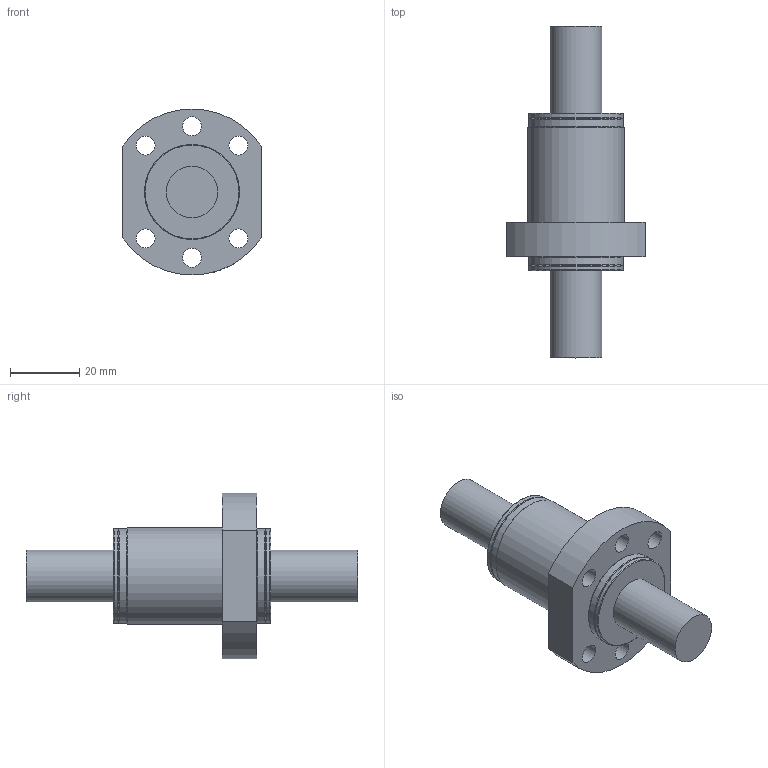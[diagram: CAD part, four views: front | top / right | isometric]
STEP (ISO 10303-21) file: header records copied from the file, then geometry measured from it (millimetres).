
FILE_DESCRIPTION(/* description */ (''),/* implementation_level */ '2;1');
FILE_NAME(/* name */ 'SFJ1616-1.8.stp',/* time_stamp */ '2023-02-20T11:38:36+08:00',/* author */ (''),/* organization */ (''),/* preprocessor_version */ 'ST-DEVELOPER v16.7',/* originating_system */ 'SIEMENS PLM Software NX 1892',/* authorisation */ '');
FILE_SCHEMA (('AUTOMOTIVE_DESIGN { 1 0 10303 214 3 1 1 1 }'));
Length unit declared in the file: millimetre
Products named in the file (1): 03161CD0525Bcuzw
Bounding box: 40 x 96 x 48 mm (x, y, z)
Surface area: 11408.2 mm2 (no closed solid volume)
Topology: 0 solids, 1 shells, 45 faces, 114 edges, 76 vertices
Faces by surface type: cylinder 23, plane 10, torus 8, bspline 3, cone 1
Full cylindrical faces by diameter (mm): 4 x1, 5 x5, 5.5 x6, 15 x2, 27.5 x4, 28 x1
Entity records: 2812 total; most frequent: CARTESIAN_POINT 1976, DIRECTION 164, ORIENTED_EDGE 124, EDGE_LOOP 83, AXIS2_PLACEMENT_3D 77, FACE_BOUND 72, EDGE_CURVE 62, VERTEX_POINT 53
